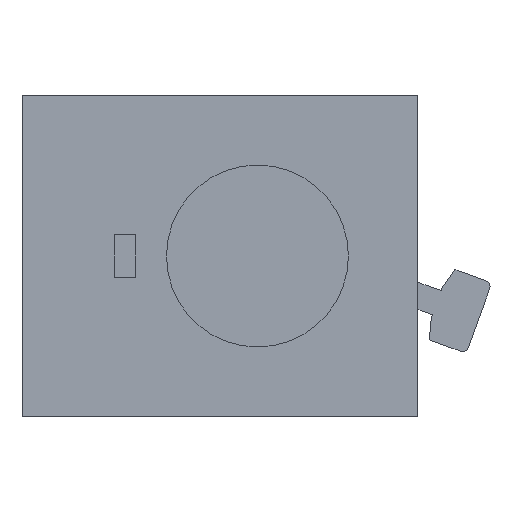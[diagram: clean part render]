
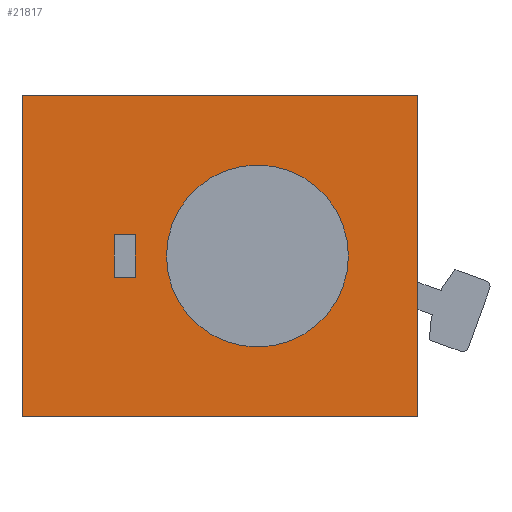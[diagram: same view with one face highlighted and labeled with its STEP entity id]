
A CAD part, front view. The second image highlights one B-rep face of the part: STEP entity #21817.
In plain terms, the highlighted planar face has unit normal (0, -1, 0).
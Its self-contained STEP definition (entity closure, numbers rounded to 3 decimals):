
#325 = CIRCLE ( 'NONE', #3990, 4.25 ) ;
#342 = CARTESIAN_POINT ( 'NONE',  ( -11., -10.5, -7.5 ) ) ;
#842 = VERTEX_POINT ( 'NONE', #6448 ) ;
#843 = ORIENTED_EDGE ( 'NONE', *, *, #18127, .F. ) ;
#1623 = DIRECTION ( 'NONE',  ( 0., 0., -1. ) ) ;
#1845 = DIRECTION ( 'NONE',  ( 0., -1., 0. ) ) ;
#1894 = LINE ( 'NONE', #14741, #18300 ) ;
#1931 = LINE ( 'NONE', #4653, #18099 ) ;
#2059 = ORIENTED_EDGE ( 'NONE', *, *, #19592, .F. ) ;
#2460 = VERTEX_POINT ( 'NONE', #5105 ) ;
#2745 = EDGE_CURVE ( 'NONE', #4240, #11501, #15804, .T. ) ;
#2839 = FACE_OUTER_BOUND ( 'NONE', #4823, .T. ) ;
#3351 = CARTESIAN_POINT ( 'NONE',  ( 0., -10.5, 0. ) ) ;
#3579 = LINE ( 'NONE', #19122, #20847 ) ;
#3640 = CARTESIAN_POINT ( 'NONE',  ( -11., -10.5, 7.5 ) ) ;
#3990 = AXIS2_PLACEMENT_3D ( 'NONE', #3351, #1845, #1623 ) ;
#4184 = VERTEX_POINT ( 'NONE', #17707 ) ;
#4240 = VERTEX_POINT ( 'NONE', #6126 ) ;
#4653 = CARTESIAN_POINT ( 'NONE',  ( -11., -10.5, -7.5 ) ) ;
#4750 = ORIENTED_EDGE ( 'NONE', *, *, #5111, .F. ) ;
#4823 = EDGE_LOOP ( 'NONE', ( #2059, #8893, #843, #4750 ) ) ;
#4846 = CARTESIAN_POINT ( 'NONE',  ( -11., -10.5, 7.5 ) ) ;
#5100 = DIRECTION ( 'NONE',  ( 0., 0., 1. ) ) ;
#5105 = CARTESIAN_POINT ( 'NONE',  ( -6.7, -10.5, -1. ) ) ;
#5111 = EDGE_CURVE ( 'NONE', #4184, #16858, #1931, .T. ) ;
#5472 = DIRECTION ( 'NONE',  ( 1., 0., 0. ) ) ;
#5559 = CARTESIAN_POINT ( 'NONE',  ( -5.7, -10.5, -1. ) ) ;
#5656 = CARTESIAN_POINT ( 'NONE',  ( -11., -10.5, 7.5 ) ) ;
#6126 = CARTESIAN_POINT ( 'NONE',  ( -5.7, -10.5, 1. ) ) ;
#6177 = DIRECTION ( 'NONE',  ( -1., 0., 0. ) ) ;
#6448 = CARTESIAN_POINT ( 'NONE',  ( 0., -10.5, -4.25 ) ) ;
#6556 = CARTESIAN_POINT ( 'NONE',  ( -5.7, -10.5, -1. ) ) ;
#6607 = AXIS2_PLACEMENT_3D ( 'NONE', #22403, #20459, #8507 ) ;
#7181 = LINE ( 'NONE', #4846, #22274 ) ;
#7958 = EDGE_LOOP ( 'NONE', ( #12011 ) ) ;
#8507 = DIRECTION ( 'NONE',  ( 0., 0., -1. ) ) ;
#8893 = ORIENTED_EDGE ( 'NONE', *, *, #13547, .F. ) ;
#8938 = DIRECTION ( 'NONE',  ( -1., 0., 0. ) ) ;
#9511 = VECTOR ( 'NONE', #18118, 1000. ) ;
#9606 = VECTOR ( 'NONE', #5472, 1000. ) ;
#9651 = VERTEX_POINT ( 'NONE', #5656 ) ;
#9907 = VERTEX_POINT ( 'NONE', #5559 ) ;
#10307 = VECTOR ( 'NONE', #5100, 1000. ) ;
#10914 = CARTESIAN_POINT ( 'NONE',  ( -6.7, -10.5, -1. ) ) ;
#11248 = CARTESIAN_POINT ( 'NONE',  ( 7.5, -10.5, 7.5 ) ) ;
#11501 = VERTEX_POINT ( 'NONE', #14205 ) ;
#11602 = DIRECTION ( 'NONE',  ( 0., 0., 1. ) ) ;
#12011 = ORIENTED_EDGE ( 'NONE', *, *, #12834, .F. ) ;
#12013 = PLANE ( 'NONE',  #6607 ) ;
#12834 = EDGE_CURVE ( 'NONE', #842, #842, #325, .T. ) ;
#13460 = EDGE_CURVE ( 'NONE', #9907, #2460, #3579, .T. ) ;
#13547 = EDGE_CURVE ( 'NONE', #9651, #20071, #15362, .T. ) ;
#14066 = FACE_BOUND ( 'NONE', #20374, .T. ) ;
#14205 = CARTESIAN_POINT ( 'NONE',  ( -6.7, -10.5, 1. ) ) ;
#14318 = ORIENTED_EDGE ( 'NONE', *, *, #13460, .T. ) ;
#14690 = ORIENTED_EDGE ( 'NONE', *, *, #15307, .T. ) ;
#14741 = CARTESIAN_POINT ( 'NONE',  ( 7.5, -10.5, 7.5 ) ) ;
#15307 = EDGE_CURVE ( 'NONE', #2460, #11501, #18019, .T. ) ;
#15362 = LINE ( 'NONE', #3640, #9606 ) ;
#15804 = LINE ( 'NONE', #19682, #19366 ) ;
#16858 = VERTEX_POINT ( 'NONE', #342 ) ;
#17447 = LINE ( 'NONE', #6556, #10307 ) ;
#17707 = CARTESIAN_POINT ( 'NONE',  ( 7.5, -10.5, -7.5 ) ) ;
#18019 = LINE ( 'NONE', #10914, #9511 ) ;
#18099 = VECTOR ( 'NONE', #6177, 1000. ) ;
#18118 = DIRECTION ( 'NONE',  ( 0., 0., 1. ) ) ;
#18127 = EDGE_CURVE ( 'NONE', #16858, #9651, #7181, .T. ) ;
#18300 = VECTOR ( 'NONE', #19939, 1000. ) ;
#18434 = ORIENTED_EDGE ( 'NONE', *, *, #20282, .F. ) ;
#19122 = CARTESIAN_POINT ( 'NONE',  ( -5.7, -10.5, -1. ) ) ;
#19292 = ORIENTED_EDGE ( 'NONE', *, *, #2745, .F. ) ;
#19366 = VECTOR ( 'NONE', #21441, 1000. ) ;
#19592 = EDGE_CURVE ( 'NONE', #20071, #4184, #1894, .T. ) ;
#19682 = CARTESIAN_POINT ( 'NONE',  ( -5.7, -10.5, 1. ) ) ;
#19939 = DIRECTION ( 'NONE',  ( 0., 0., -1. ) ) ;
#20071 = VERTEX_POINT ( 'NONE', #11248 ) ;
#20282 = EDGE_CURVE ( 'NONE', #9907, #4240, #17447, .T. ) ;
#20374 = EDGE_LOOP ( 'NONE', ( #14318, #14690, #19292, #18434 ) ) ;
#20459 = DIRECTION ( 'NONE',  ( 0., -1., 0. ) ) ;
#20847 = VECTOR ( 'NONE', #8938, 1000. ) ;
#21441 = DIRECTION ( 'NONE',  ( -1., 0., 0. ) ) ;
#21817 = ADVANCED_FACE ( 'NONE', ( #14066, #22601, #2839 ), #12013, .T. ) ;
#22274 = VECTOR ( 'NONE', #11602, 1000. ) ;
#22403 = CARTESIAN_POINT ( 'NONE',  ( 0., -10.5, 0. ) ) ;
#22601 = FACE_BOUND ( 'NONE', #7958, .T. ) ;
